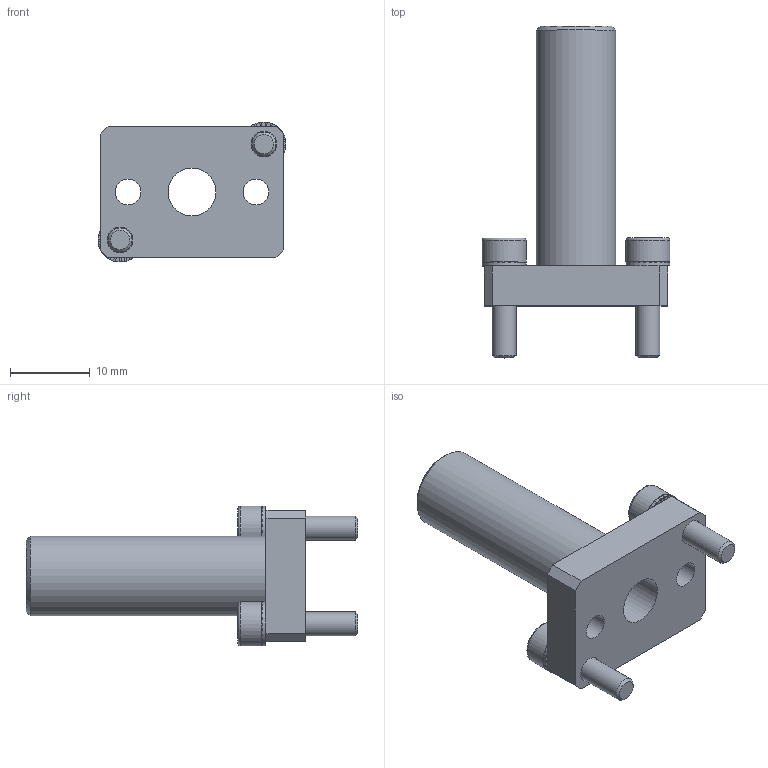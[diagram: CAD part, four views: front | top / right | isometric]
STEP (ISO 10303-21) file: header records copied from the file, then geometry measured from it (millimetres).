
FILE_DESCRIPTION(('STEP AP214'),'1');
FILE_NAME('CA.APGE.10.10.30.stp','2019-05-14T13:00:19',(' '),(' '),'Spatial InterOp 3D',' ',' ');
FILE_SCHEMA(('AUTOMOTIVE_DESIGN { 1 0 10303 214 1 1 1 1 }'));
Length unit declared in the file: millimetre
Products named in the file (4): CA.APGE.10.10.30; V.TCE3x12; R.3.SCH; APGE.10.10.30
Assembly tree (5 placements, depth 2):
  CA.APGE.10.10.30
    V.TCE3x12  x2
    R.3.SCH  x2
    APGE.10.10.30
Bounding box: 23.5 x 41.5 x 17.5 mm (x, y, z)
Volume: 3390.9 mm3; surface area: 3361.7 mm2
Topology: 5 solids, 5 shells, 436 faces, 1344 edges, 919 vertices
Faces by surface type: plane 415, cylinder 14, torus 4, cone 3
Full cylindrical faces by diameter (mm): 3 x2, 3.2 x4, 3.5 x2, 5.5 x4, 6 x1, 10 x1
Entity records: 9696 total; most frequent: CARTESIAN_POINT 1381, DIRECTION 1355, ORIENTED_EDGE 1354, EDGE_CURVE 677, VERTEX_POINT 471, LINE 465, VECTOR 465, AXIS2_PLACEMENT_3D 445
